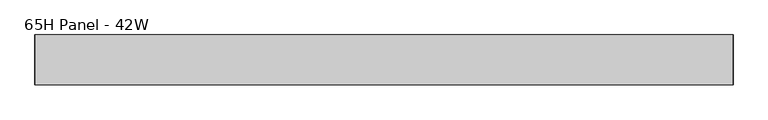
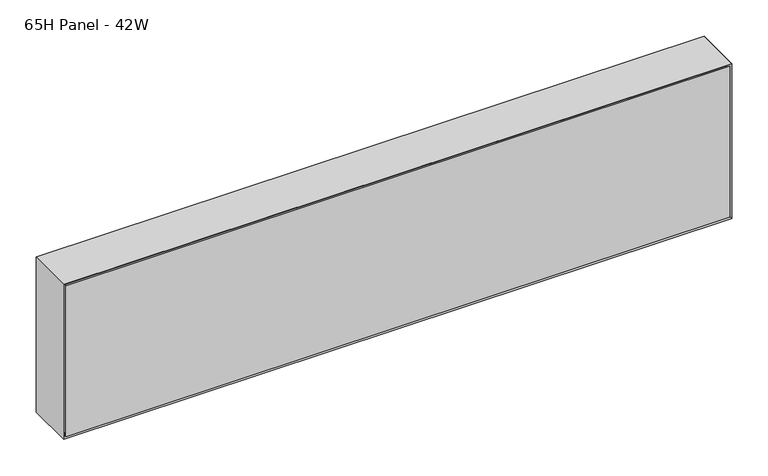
"""IFC4 building model written with IfcOpenShell, lengths in millimetres: furniture geometry, Steelcase - Montage - Frame - 10H - Enhanced Standard - Single Stack-On : 65H Panel - 42W."""

from ifc_helpers import new_model, si_unit, frame, origin, place, context, project, spatial, polyline, outline, extrude, faceted_brep, source, transform, mapped, element, save


def furniture_65h_panel_42w_02b3bef2(model_context):
    return source(origin(), model_context, "Body", "SolidModel", [
        faceted_brep([(1057.2750027, 31.7500194, 1912.9502415), (9.5250028, 31.7500194, 1912.9502415), (9.5250028, 31.7500194, 1670.05), (1057.2750027, 31.7500194, 1670.05), (1063.625, 38.1000194, 1919.3002415), (1063.625, 38.1000194, 1663.7), (3.175, 38.1000194, 1663.7), (3.175, 38.1000194, 1919.3002415)], [[[0, 1, 2, 3]], [[4, 5, 6, 7]], [[4, 0, 3, 5]], [[5, 3, 2, 6]], [[6, 2, 1, 7]], [[7, 1, 0, 4]]]),
        faceted_brep([(1057.2750027, -31.7500194, 1912.9502415), (1057.2750027, -31.7500194, 1670.05), (9.5250028, -31.7500194, 1670.05), (9.5250028, -31.7500194, 1912.9502415), (1063.625, -38.1000194, 1919.3002415), (3.175, -38.1000194, 1919.3002415), (3.175, -38.1000194, 1663.7), (1063.625, -38.1000194, 1663.7)], [[[0, 1, 2, 3]], [[4, 5, 6, 7]], [[4, 7, 1, 0]], [[7, 6, 2, 1]], [[6, 5, 3, 2]], [[5, 4, 0, 3]]]),
        faceted_brep([(1066.8, -38.1000015, 1660.525), (1066.8, 38.1000015, 1660.525), (1066.8, 38.1000015, 1922.4752415), (1066.8, -38.1000106, 1922.4752414), (0.0, 38.1000015, 1660.525), (0.0, -38.1000015, 1660.525), (0.0, -38.1000015, 1922.4752415), (0.0, 38.1000015, 1922.4752415), (6.3500484, 31.749953, 1666.8750484), (1060.4499879, 31.749953, 1666.8750484), (6.35, -31.749953, 1666.8750484), (1060.4499879, -31.749953, 1666.8750484), (6.3500169, 31.7499846, 1916.1252245), (6.3500012, -31.7500003, 1916.125193), (1060.4499879, -31.7499973, 1916.125193), (1060.4499879, 31.7499885, 1916.1252293)], [[[0, 1, 2, 3]], [[4, 5, 6, 7]], [[1, 0, 5, 4]], [[1, 4, 8, 9]], [[9, 8, 10, 11]], [[5, 0, 11, 10]], [[4, 7, 12, 8]], [[6, 5, 10, 13]], [[10, 8, 12, 13]], [[9, 11, 14, 15]], [[0, 3, 14, 11]], [[2, 1, 9, 15]], [[3, 2, 15, 14]], [[7, 6, 13, 12]]]),
        faceted_brep([(1066.8, -38.1000015, 1922.4752415), (0.0, -38.1000015, 1922.4752415), (6.3500484, -31.749953, 1916.125193), (1060.4499516, -31.749953, 1916.125193), (6.3500484, 31.749953, 1916.125193), (1060.4499516, 31.749953, 1916.125193), (0.0, 38.1000015, 1922.4752415), (1066.8, 38.1000015, 1922.4752415)], [[[0, 1, 2, 3]], [[3, 2, 4, 5]], [[6, 7, 5, 4]], [[1, 0, 7, 6]], [[2, 1, 6, 4]], [[0, 3, 5, 7]]]),
        extrude(outline(polyline([(1060.4499879, 31.7500016), (1060.4499879, -31.7499985), (6.35, -31.7499985), (6.35, 31.7500016), (1060.4499879, 31.7500016)])), frame((0.0, 0.0, 1666.8702145), z_axis=(0.0, 0.0, 1.0), x_axis=(1.0, 0.0, 0.0)), (0.0, 0.0, 1.0), 249.2549785),
    ])


if __name__ == "__main__":
    model = new_model("IFC4")
    model_context = context("Model", 3, world=origin())
    ifc_project = project(units=[si_unit("LENGTHUNIT", "METRE", prefix="MILLI")], contexts=[model_context])
    site = spatial("IfcSite", under=ifc_project)
    building = spatial("IfcBuilding", under=site)
    placement = place(None, origin())
    furniture_65h_panel_42w_shape = furniture_65h_panel_42w_02b3bef2(model_context)
    element("IfcFurniture", 1, ObjectType="Steelcase - Montage - Frame - 10H - Enhanced Standard - Single Stack-On : 65H Panel - 42W", at=placement, inside=building, context=model_context, shape_type="MappedRepresentation", body=[
        mapped(furniture_65h_panel_42w_shape, transform((0.0, 0.0, 0.0), x_axis=(1.0, 0.0, 0.0), y_axis=(0.0, 1.0, 0.0), z_axis=(0.0, 0.0, 1.0))),
    ])
    save(model, "model.ifc")
